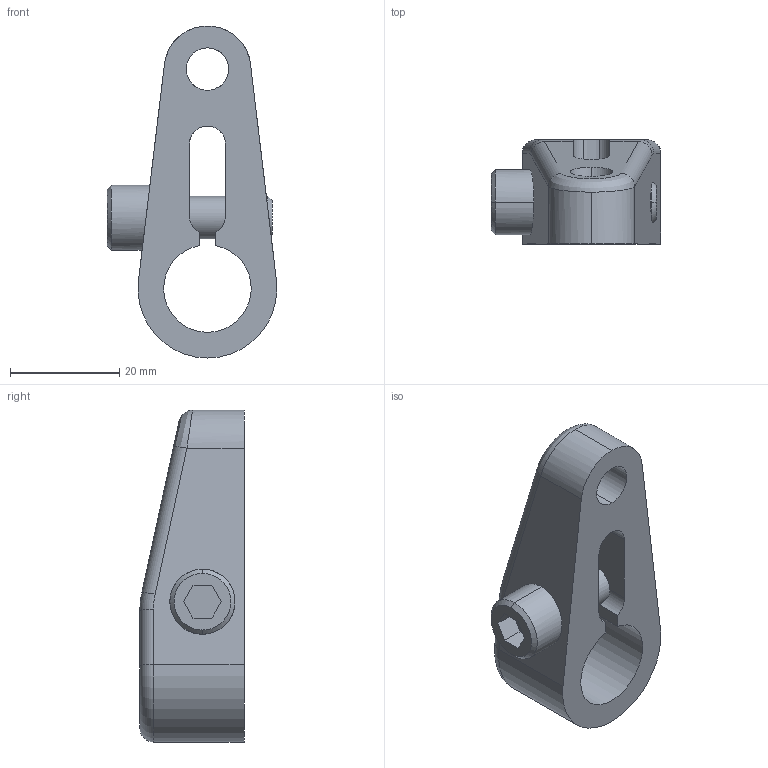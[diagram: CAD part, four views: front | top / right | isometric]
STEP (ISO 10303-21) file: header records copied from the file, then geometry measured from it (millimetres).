
FILE_DESCRIPTION((''),'2;1');
FILE_NAME('CAS-52','2013-06-03T',('chad.steele'),(''),'PRO/ENGINEER BY PARAMETRIC TECHNOLOGY CORPORATION, 2010230','PRO/ENGINEER BY PARAMETRIC TECHNOLOGY CORPORATION, 2010230','');
FILE_SCHEMA(('CONFIG_CONTROL_DESIGN'));
Length unit declared in the file: inch
Products named in the file (1): CAS-52
Bounding box: 31.02 x 19.05 x 60.71 mm (x, y, z)
Volume: 14225.4 mm3; surface area: 6353.4 mm2
Topology: 1 solids, 1 shells, 52 faces, 144 edges, 94 vertices
Faces by surface type: cylinder 25, plane 18, cone 5, torus 3, bspline 1
Entity records: 2082 total; most frequent: CARTESIAN_POINT 712, ORIENTED_EDGE 288, DIRECTION 265, EDGE_CURVE 144, AXIS2_PLACEMENT_3D 97, VERTEX_POINT 94, VECTOR 71, LINE 71
